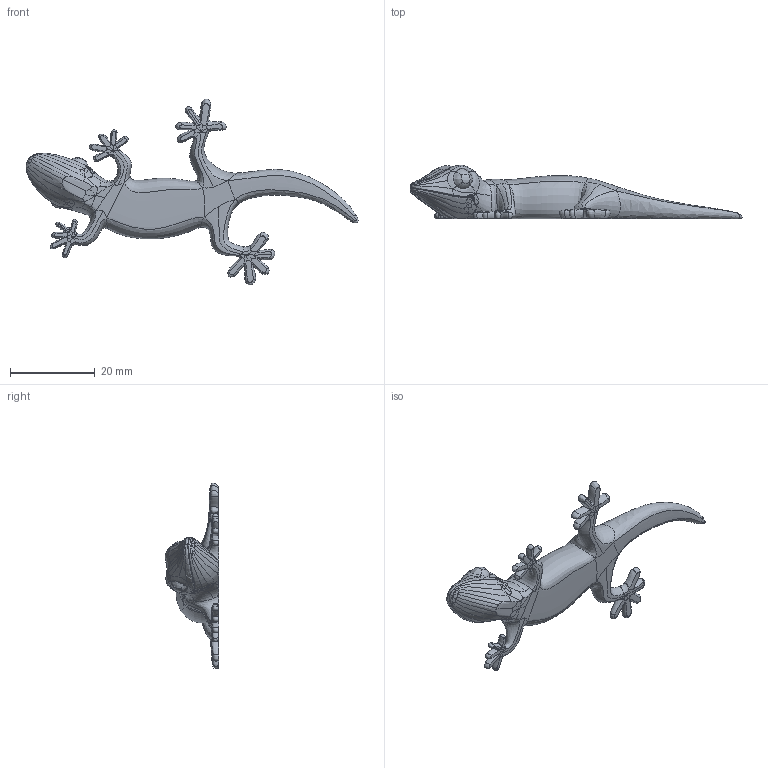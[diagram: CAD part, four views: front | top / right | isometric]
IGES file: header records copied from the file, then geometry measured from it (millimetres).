
Start section: SolidWorks IGES file using NURBS representation for surfaces
Global section: file name: C:\Users\Nick\Documents\Nick's Models\stringy_bark\gecko_even_better2.IGS; native system: SolidWorks 2015; preprocessor: SolidWorks 2015; author: Nick; date: 160221.200221; units: millimetre
Bounding box: 78.21 x 12.67 x 43.8 mm (x, y, z)
Surface area: 3215 mm2 (no closed solid volume)
Topology: 0 solids, 0 shells, 311 faces, 2079 edges, 2772 vertices
Faces by surface type: bspline 311
